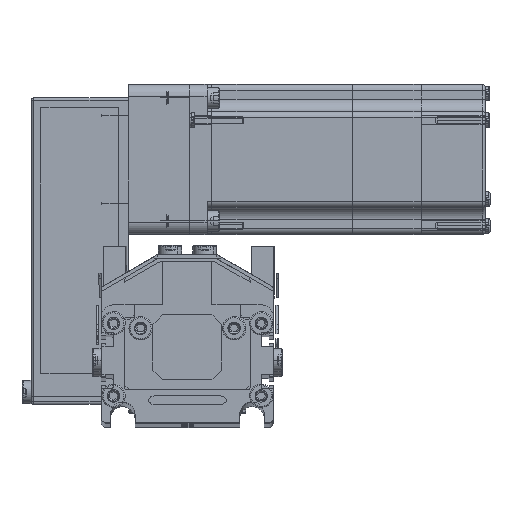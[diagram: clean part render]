
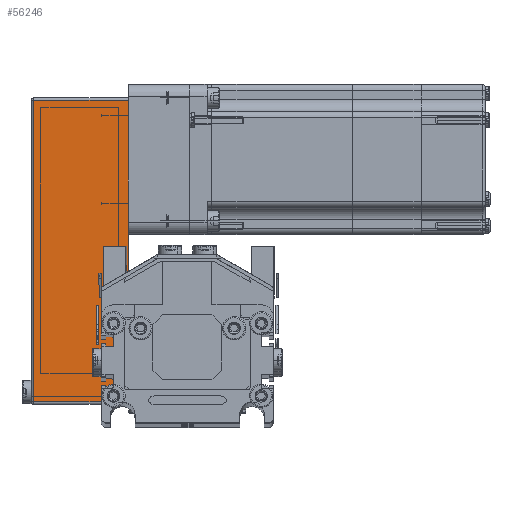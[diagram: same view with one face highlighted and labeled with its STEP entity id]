
A CAD part, top view. The second image highlights one B-rep face of the part: STEP entity #56246.
In plain terms, the highlighted planar face has unit normal (0, 0, 1) as drawn and (0, -1, 0) by its records, which use the part's own axes.
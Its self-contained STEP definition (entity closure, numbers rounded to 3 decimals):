
#26689 = LINE ( 'NONE', #26699, #26808 ) ;
#26697 = AXIS2_PLACEMENT_3D ( 'NONE', #26814, #26813, #26812 ) ;
#26699 = CARTESIAN_POINT ( 'NONE',  ( -49., -25., 39.5 ) ) ;
#26700 = PLANE ( 'NONE',  #26697 ) ;
#26709 = FACE_OUTER_BOUND ( 'NONE', #56069, .T. ) ;
#26711 = DIRECTION ( 'NONE',  ( 1., 0., 0. ) ) ;
#26712 = VECTOR ( 'NONE', #26711, 1000. ) ;
#26714 = CARTESIAN_POINT ( 'NONE',  ( -50., -25., 0. ) ) ;
#26722 = LINE ( 'NONE', #26714, #26712 ) ;
#26725 = CARTESIAN_POINT ( 'NONE',  ( -49., -25., 0. ) ) ;
#26753 = DIRECTION ( 'NONE',  ( -1., 0., 0. ) ) ;
#26754 = VECTOR ( 'NONE', #26753, 1000. ) ;
#26775 = LINE ( 'NONE', #26783, #26754 ) ;
#26783 = CARTESIAN_POINT ( 'NONE',  ( -50., -25., 38.5 ) ) ;
#26807 = DIRECTION ( 'NONE',  ( 0., 0., -1. ) ) ;
#26808 = VECTOR ( 'NONE', #26807, 1000. ) ;
#26812 = DIRECTION ( 'NONE',  ( 0., 0., 1. ) ) ;
#26813 = DIRECTION ( 'NONE',  ( 0., 1., 0. ) ) ;
#26814 = CARTESIAN_POINT ( 'NONE',  ( -50., -25., 39.5 ) ) ;
#56034 = EDGE_CURVE ( 'NONE', #56093, #56219, #97975, .T. ) ;
#56039 = ORIENTED_EDGE ( 'NONE', *, *, #56034, .T. ) ;
#56042 = ORIENTED_EDGE ( 'NONE', *, *, #56237, .T. ) ;
#56066 = ORIENTED_EDGE ( 'NONE', *, *, #56257, .T. ) ;
#56069 = EDGE_LOOP ( 'NONE', ( #56066, #56247, #56042, #56039 ) ) ;
#56093 = VERTEX_POINT ( 'NONE', #98774 ) ;
#56112 = VERTEX_POINT ( 'NONE', #99174 ) ;
#56219 = VERTEX_POINT ( 'NONE', #99358 ) ;
#56236 = VERTEX_POINT ( 'NONE', #26725 ) ;
#56237 = EDGE_CURVE ( 'NONE', #56236, #56093, #26722, .T. ) ;
#56246 = ADVANCED_FACE ( 'NONE', ( #26709 ), #26700, .F. ) ;
#56247 = ORIENTED_EDGE ( 'NONE', *, *, #56249, .T. ) ;
#56249 = EDGE_CURVE ( 'NONE', #56112, #56236, #26689, .T. ) ;
#56257 = EDGE_CURVE ( 'NONE', #56219, #56112, #26775, .T. ) ;
#97974 = CARTESIAN_POINT ( 'NONE',  ( 73.5, -25., 39.5 ) ) ;
#97975 = LINE ( 'NONE', #97974, #98148 ) ;
#98145 = DIRECTION ( 'NONE',  ( 0., 0., 1. ) ) ;
#98148 = VECTOR ( 'NONE', #98145, 1000. ) ;
#98774 = CARTESIAN_POINT ( 'NONE',  ( 73.5, -25., 0. ) ) ;
#99174 = CARTESIAN_POINT ( 'NONE',  ( -49., -25., 38.5 ) ) ;
#99358 = CARTESIAN_POINT ( 'NONE',  ( 73.5, -25., 38.5 ) ) ;
